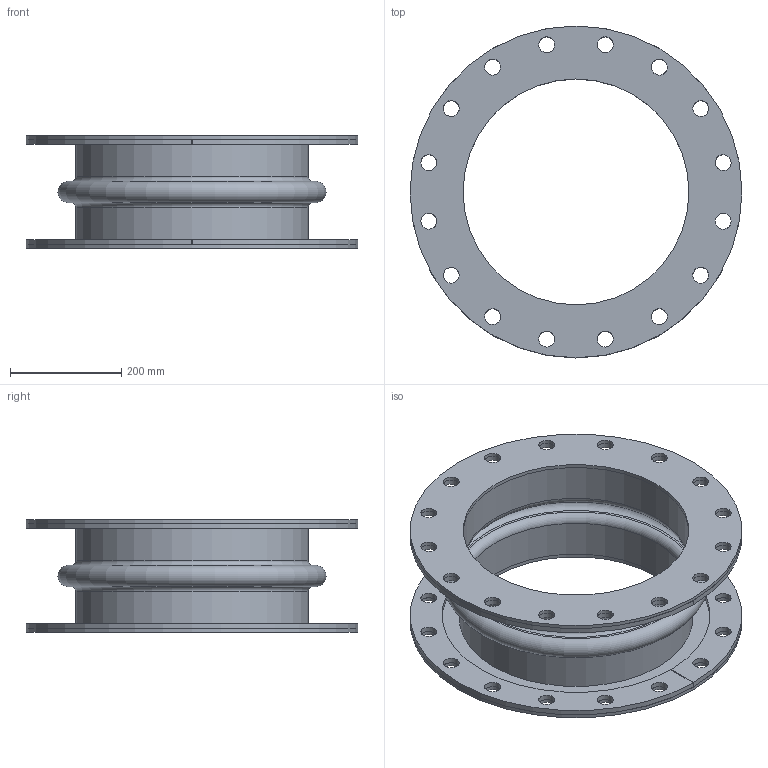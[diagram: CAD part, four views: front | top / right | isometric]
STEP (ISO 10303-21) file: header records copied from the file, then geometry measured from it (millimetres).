
FILE_DESCRIPTION(/* description */ (''),/* implementation_level */ '2;1');
FILE_NAME(/* name */ '16x8.stp',/* time_stamp */ '2026-07-21T16:18:27-05:00',/* author */ ('linda'),/* organization */ (''),/* preprocessor_version */ 'ST-DEVELOPER v20.1',/* originating_system */ 'Autodesk Inventor 2026',/* authorisation */ '');
FILE_SCHEMA (('AUTOMOTIVE_DESIGN { 1 0 10303 214 3 1 1 }'));
Length unit declared in the file: inch
Products named in the file (1): Part16
Bounding box: 596.9 x 596.9 x 203.2 mm (x, y, z)
Volume: 5381568.6 mm3; surface area: 1660320.3 mm2
Topology: 5 solids, 5 shells, 110 faces, 282 edges, 188 vertices
Faces by surface type: cylinder 80, plane 24, torus 6
Full cylindrical faces by diameter (mm): 28.702 x64, 406.4 x4, 419.1 x2, 596.9 x2
Entity records: 3873 total; most frequent: DIRECTION 682, CARTESIAN_POINT 581, ORIENTED_EDGE 564, AXIS2_PLACEMENT_3D 289, EDGE_CURVE 282, EDGE_LOOP 246, VERTEX_POINT 188, CIRCLE 178
